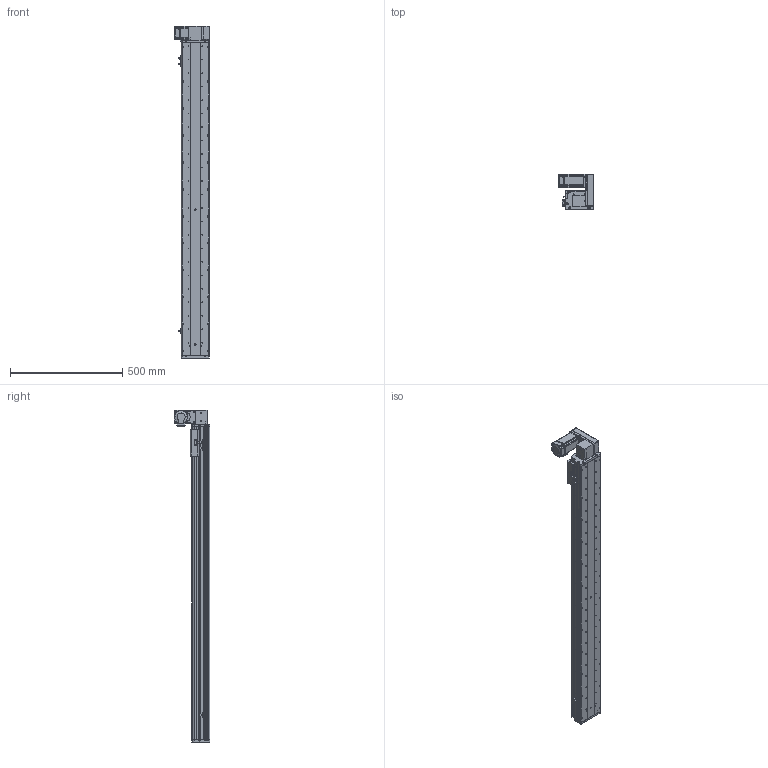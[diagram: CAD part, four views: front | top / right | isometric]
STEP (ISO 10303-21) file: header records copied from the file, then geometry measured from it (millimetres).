
FILE_DESCRIPTION (( 'STEP AP214' ), '1' );
FILE_NAME ('KSD125B-S1200-MLU-CM.STEP', '2017-10-21T03:33:31', ( '微软用户' ), ( '微软中国' ), 'SwSTEP 2.0', 'SolidWorks 2014', '' );
FILE_SCHEMA (( 'AUTOMOTIVE_DESIGN' ));
Length unit declared in the file: millimetre
Products named in the file (17): KSD125模组同步带-防撞垫1; 前端板-125宽模组同步带; 125模组同步带-尾端板1; KSD125模组同步带-滑动座1; KSD125B-S1200-MLU-CM; 悵誘欶奻狟殏; 100宽马达安装板连板上下折丝杆同步带; HTPA30S3M150_A_H6_a佪裝蚚; HTPA30S3M150_A_H6_a萇儂蚚; 100宽马达安装板同步带左; KSD125模组1200行程同步带-防尘盖; 125模组1200行程同步带-底板; MHMD042G1CA_2_03; KSD125模组同步带-防撞垫2; 覜茼え68遵圉猾敕; U倰嫖萇假蚾璃; U倰嫖萇EEㄜSX672
Assembly tree (20 placements, depth 2):
  KSD125B-S1200-MLU-CM
    KSD125模组同步带-滑动座1
    125模组同步带-尾端板1
    前端板-125宽模组同步带
    KSD125模组同步带-防撞垫1
    U倰嫖萇EEㄜSX672  x3
    U倰嫖萇假蚾璃  x3
    覜茼え68遵圉猾敕
    KSD125模组同步带-防撞垫2
    MHMD042G1CA_2_03
    125模组1200行程同步带-底板
    KSD125模组1200行程同步带-防尘盖
    100宽马达安装板同步带左
    HTPA30S3M150_A_H6_a萇儂蚚
    HTPA30S3M150_A_H6_a佪裝蚚
    100宽马达安装板连板上下折丝杆同步带
    悵誘欶奻狟殏
Bounding box: 155 x 157.5 x 1477 mm (x, y, z)
Volume: 4458897.3 mm3; surface area: 1489175.5 mm2
Topology: 19 solids, 22 shells, 2347 faces, 6805 edges, 4498 vertices
Faces by surface type: cylinder 1488, plane 732, cone 105, bspline 22
Entity records: 83843 total; most frequent: CARTESIAN_POINT 16515, DIRECTION 13026, ORIENTED_EDGE 12130, EDGE_CURVE 6143, AXIS2_PLACEMENT_3D 5049, VERTEX_POINT 4090, VECTOR 2928, LINE 2928
